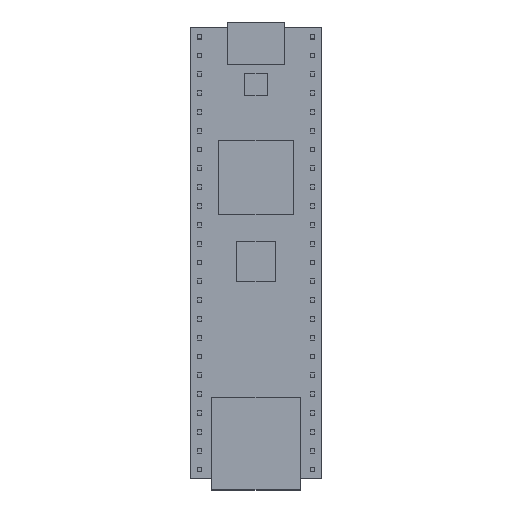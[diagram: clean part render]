
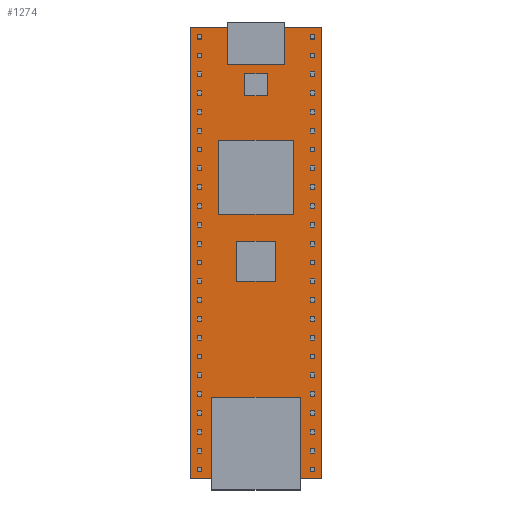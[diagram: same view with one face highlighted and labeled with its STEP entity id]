
A CAD part, top view. The second image highlights one B-rep face of the part: STEP entity #1274.
In plain terms, the highlighted planar face has unit normal (0, 0, 1).
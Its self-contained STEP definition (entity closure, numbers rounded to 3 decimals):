
#960 = VERTEX_POINT('',#961);
#961 = CARTESIAN_POINT('',(-8.89,-30.48,0.8));
#968 = PLANE('',#969);
#969 = AXIS2_PLACEMENT_3D('',#970,#971,#972);
#970 = CARTESIAN_POINT('',(-8.89,-30.48,-0.8));
#971 = DIRECTION('',(1.,0.,-0.));
#972 = DIRECTION('',(0.,0.,1.));
#980 = PLANE('',#981);
#981 = AXIS2_PLACEMENT_3D('',#982,#983,#984);
#982 = CARTESIAN_POINT('',(-8.89,-30.48,-0.8));
#983 = DIRECTION('',(-0.,1.,0.));
#984 = DIRECTION('',(0.,0.,1.));
#1021 = VERTEX_POINT('',#1022);
#1022 = CARTESIAN_POINT('',(-8.89,30.48,0.8));
#1036 = PLANE('',#1037);
#1037 = AXIS2_PLACEMENT_3D('',#1038,#1039,#1040);
#1038 = CARTESIAN_POINT('',(-8.89,30.48,-0.8));
#1039 = DIRECTION('',(-0.,1.,0.));
#1040 = DIRECTION('',(0.,0.,1.));
#1048 = EDGE_CURVE('',#960,#1021,#1049,.T.);
#1049 = SURFACE_CURVE('',#1050,(#1054,#1061),.PCURVE_S1.);
#1050 = LINE('',#1051,#1052);
#1051 = CARTESIAN_POINT('',(-8.89,-30.48,0.8));
#1052 = VECTOR('',#1053,1.);
#1053 = DIRECTION('',(-0.,1.,0.));
#1054 = PCURVE('',#968,#1055);
#1055 = DEFINITIONAL_REPRESENTATION('',(#1056),#1060);
#1056 = LINE('',#1057,#1058);
#1057 = CARTESIAN_POINT('',(1.6,0.));
#1058 = VECTOR('',#1059,1.);
#1059 = DIRECTION('',(0.,-1.));
#1060 = ( GEOMETRIC_REPRESENTATION_CONTEXT(2) 
PARAMETRIC_REPRESENTATION_CONTEXT() REPRESENTATION_CONTEXT('2D SPACE',''
  ) );
#1061 = PCURVE('',#1062,#1067);
#1062 = PLANE('',#1063);
#1063 = AXIS2_PLACEMENT_3D('',#1064,#1065,#1066);
#1064 = CARTESIAN_POINT('',(-8.89,-30.48,0.8));
#1065 = DIRECTION('',(0.,0.,1.));
#1066 = DIRECTION('',(1.,0.,-0.));
#1067 = DEFINITIONAL_REPRESENTATION('',(#1068),#1072);
#1068 = LINE('',#1069,#1070);
#1069 = CARTESIAN_POINT('',(0.,0.));
#1070 = VECTOR('',#1071,1.);
#1071 = DIRECTION('',(0.,1.));
#1072 = ( GEOMETRIC_REPRESENTATION_CONTEXT(2) 
PARAMETRIC_REPRESENTATION_CONTEXT() REPRESENTATION_CONTEXT('2D SPACE',''
  ) );
#1080 = VERTEX_POINT('',#1081);
#1081 = CARTESIAN_POINT('',(8.89,-30.48,0.8));
#1088 = PLANE('',#1089);
#1089 = AXIS2_PLACEMENT_3D('',#1090,#1091,#1092);
#1090 = CARTESIAN_POINT('',(8.89,-30.48,-0.8));
#1091 = DIRECTION('',(1.,0.,-0.));
#1092 = DIRECTION('',(0.,0.,1.));
#1131 = VERTEX_POINT('',#1132);
#1132 = CARTESIAN_POINT('',(8.89,30.48,0.8));
#1153 = EDGE_CURVE('',#1080,#1131,#1154,.T.);
#1154 = SURFACE_CURVE('',#1155,(#1159,#1166),.PCURVE_S1.);
#1155 = LINE('',#1156,#1157);
#1156 = CARTESIAN_POINT('',(8.89,-30.48,0.8));
#1157 = VECTOR('',#1158,1.);
#1158 = DIRECTION('',(-0.,1.,0.));
#1159 = PCURVE('',#1088,#1160);
#1160 = DEFINITIONAL_REPRESENTATION('',(#1161),#1165);
#1161 = LINE('',#1162,#1163);
#1162 = CARTESIAN_POINT('',(1.6,0.));
#1163 = VECTOR('',#1164,1.);
#1164 = DIRECTION('',(0.,-1.));
#1165 = ( GEOMETRIC_REPRESENTATION_CONTEXT(2) 
PARAMETRIC_REPRESENTATION_CONTEXT() REPRESENTATION_CONTEXT('2D SPACE',''
  ) );
#1166 = PCURVE('',#1062,#1167);
#1167 = DEFINITIONAL_REPRESENTATION('',(#1168),#1172);
#1168 = LINE('',#1169,#1170);
#1169 = CARTESIAN_POINT('',(17.78,0.));
#1170 = VECTOR('',#1171,1.);
#1171 = DIRECTION('',(0.,1.));
#1172 = ( GEOMETRIC_REPRESENTATION_CONTEXT(2) 
PARAMETRIC_REPRESENTATION_CONTEXT() REPRESENTATION_CONTEXT('2D SPACE',''
  ) );
#1199 = EDGE_CURVE('',#960,#1080,#1200,.T.);
#1200 = SURFACE_CURVE('',#1201,(#1205,#1212),.PCURVE_S1.);
#1201 = LINE('',#1202,#1203);
#1202 = CARTESIAN_POINT('',(-8.89,-30.48,0.8));
#1203 = VECTOR('',#1204,1.);
#1204 = DIRECTION('',(1.,0.,-0.));
#1205 = PCURVE('',#980,#1206);
#1206 = DEFINITIONAL_REPRESENTATION('',(#1207),#1211);
#1207 = LINE('',#1208,#1209);
#1208 = CARTESIAN_POINT('',(1.6,0.));
#1209 = VECTOR('',#1210,1.);
#1210 = DIRECTION('',(0.,1.));
#1211 = ( GEOMETRIC_REPRESENTATION_CONTEXT(2) 
PARAMETRIC_REPRESENTATION_CONTEXT() REPRESENTATION_CONTEXT('2D SPACE',''
  ) );
#1212 = PCURVE('',#1062,#1213);
#1213 = DEFINITIONAL_REPRESENTATION('',(#1214),#1218);
#1214 = LINE('',#1215,#1216);
#1215 = CARTESIAN_POINT('',(0.,0.));
#1216 = VECTOR('',#1217,1.);
#1217 = DIRECTION('',(1.,0.));
#1218 = ( GEOMETRIC_REPRESENTATION_CONTEXT(2) 
PARAMETRIC_REPRESENTATION_CONTEXT() REPRESENTATION_CONTEXT('2D SPACE',''
  ) );
#1246 = EDGE_CURVE('',#1021,#1131,#1247,.T.);
#1247 = SURFACE_CURVE('',#1248,(#1252,#1259),.PCURVE_S1.);
#1248 = LINE('',#1249,#1250);
#1249 = CARTESIAN_POINT('',(-8.89,30.48,0.8));
#1250 = VECTOR('',#1251,1.);
#1251 = DIRECTION('',(1.,0.,-0.));
#1252 = PCURVE('',#1036,#1253);
#1253 = DEFINITIONAL_REPRESENTATION('',(#1254),#1258);
#1254 = LINE('',#1255,#1256);
#1255 = CARTESIAN_POINT('',(1.6,0.));
#1256 = VECTOR('',#1257,1.);
#1257 = DIRECTION('',(0.,1.));
#1258 = ( GEOMETRIC_REPRESENTATION_CONTEXT(2) 
PARAMETRIC_REPRESENTATION_CONTEXT() REPRESENTATION_CONTEXT('2D SPACE',''
  ) );
#1259 = PCURVE('',#1062,#1260);
#1260 = DEFINITIONAL_REPRESENTATION('',(#1261),#1265);
#1261 = LINE('',#1262,#1263);
#1262 = CARTESIAN_POINT('',(0.,60.96));
#1263 = VECTOR('',#1264,1.);
#1264 = DIRECTION('',(1.,0.));
#1265 = ( GEOMETRIC_REPRESENTATION_CONTEXT(2) 
PARAMETRIC_REPRESENTATION_CONTEXT() REPRESENTATION_CONTEXT('2D SPACE',''
  ) );
#1274 = ADVANCED_FACE('',(#1275),#1062,.T.);
#1275 = FACE_BOUND('',#1276,.T.);
#1276 = EDGE_LOOP('',(#1277,#1278,#1279,#1280));
#1277 = ORIENTED_EDGE('',*,*,#1048,.F.);
#1278 = ORIENTED_EDGE('',*,*,#1199,.T.);
#1279 = ORIENTED_EDGE('',*,*,#1153,.T.);
#1280 = ORIENTED_EDGE('',*,*,#1246,.F.);
